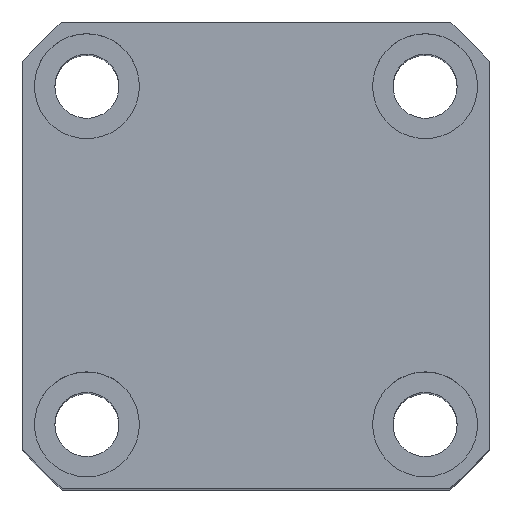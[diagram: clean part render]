
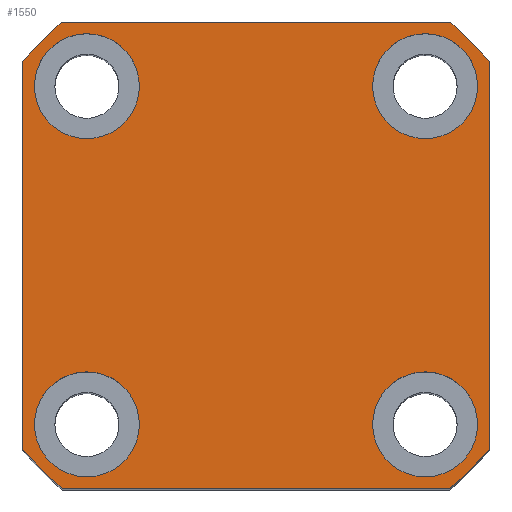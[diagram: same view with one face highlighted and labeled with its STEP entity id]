
A CAD part, top view. The second image highlights one B-rep face of the part: STEP entity #1550.
In plain terms, the highlighted planar face has unit normal (0, 0, 1).
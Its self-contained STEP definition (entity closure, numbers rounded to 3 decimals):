
#8 = DIRECTION ( 'NONE',  ( 1., 0., 0. ) ) ;
#108 = VECTOR ( 'NONE', #3634, 1000. ) ;
#239 = DIRECTION ( 'NONE',  ( 1., 0., 0. ) ) ;
#420 = CARTESIAN_POINT ( 'NONE',  ( 38., -29., 72.5 ) ) ;
#431 = CARTESIAN_POINT ( 'NONE',  ( 38., 29., 72.5 ) ) ;
#545 = AXIS2_PLACEMENT_3D ( 'NONE', #9528, #1205, #9612 ) ;
#702 = ORIENTED_EDGE ( 'NONE', *, *, #2086, .T. ) ;
#760 = CARTESIAN_POINT ( 'NONE',  ( 20., 29., 72.5 ) ) ;
#761 = DIRECTION ( 'NONE',  ( 1., 0., 0. ) ) ;
#773 = CIRCLE ( 'NONE', #3889, 52. ) ;
#853 = VERTEX_POINT ( 'NONE', #10088 ) ;
#1081 = VERTEX_POINT ( 'NONE', #8326 ) ;
#1093 = DIRECTION ( 'NONE',  ( 0., 0., 1. ) ) ;
#1186 = CARTESIAN_POINT ( 'NONE',  ( -33.226, 40., 72.5 ) ) ;
#1205 = DIRECTION ( 'NONE',  ( 0., 0., 1. ) ) ;
#1518 = AXIS2_PLACEMENT_3D ( 'NONE', #5052, #1093, #6952 ) ;
#1550 = ADVANCED_FACE ( 'NONE', ( #6408, #7987, #1799, #10460, #1922 ), #8772, .T. ) ;
#1568 = VERTEX_POINT ( 'NONE', #5389 ) ;
#1589 = CARTESIAN_POINT ( 'NONE',  ( 40., 33.226, 72.5 ) ) ;
#1608 = VERTEX_POINT ( 'NONE', #7776 ) ;
#1684 = DIRECTION ( 'NONE',  ( 0., 0., 1. ) ) ;
#1775 = DIRECTION ( 'NONE',  ( 1., 0., 0. ) ) ;
#1799 = FACE_BOUND ( 'NONE', #10679, .T. ) ;
#1816 = DIRECTION ( 'NONE',  ( 1., 0., 0. ) ) ;
#1855 = AXIS2_PLACEMENT_3D ( 'NONE', #10121, #8449, #7544 ) ;
#1866 = DIRECTION ( 'NONE',  ( 0., 0., 1. ) ) ;
#1886 = CARTESIAN_POINT ( 'NONE',  ( -29., -29., 72.5 ) ) ;
#1922 = FACE_OUTER_BOUND ( 'NONE', #3090, .T. ) ;
#1955 = DIRECTION ( 'NONE',  ( 0., 0., 1. ) ) ;
#1956 = CARTESIAN_POINT ( 'NONE',  ( -40., 33.226, 72.5 ) ) ;
#2086 = EDGE_CURVE ( 'NONE', #1081, #2526, #773, .T. ) ;
#2304 = AXIS2_PLACEMENT_3D ( 'NONE', #10078, #2600, #1816 ) ;
#2326 = EDGE_CURVE ( 'NONE', #9507, #2534, #9039, .T. ) ;
#2383 = AXIS2_PLACEMENT_3D ( 'NONE', #3373, #4277, #8 ) ;
#2436 = DIRECTION ( 'NONE',  ( 0., 0., 1. ) ) ;
#2454 = VERTEX_POINT ( 'NONE', #8530 ) ;
#2511 = EDGE_LOOP ( 'NONE', ( #6665, #6082 ) ) ;
#2526 = VERTEX_POINT ( 'NONE', #2843 ) ;
#2534 = VERTEX_POINT ( 'NONE', #9562 ) ;
#2600 = DIRECTION ( 'NONE',  ( 0., 0., 1. ) ) ;
#2726 = CIRCLE ( 'NONE', #1518, 9. ) ;
#2768 = AXIS2_PLACEMENT_3D ( 'NONE', #5972, #6798, #1775 ) ;
#2843 = CARTESIAN_POINT ( 'NONE',  ( 40., -33.226, 72.5 ) ) ;
#2905 = VERTEX_POINT ( 'NONE', #8022 ) ;
#3090 = EDGE_LOOP ( 'NONE', ( #8005, #4132, #5023, #10431, #702, #9405, #5781, #10272 ) ) ;
#3258 = CIRCLE ( 'NONE', #2768, 52. ) ;
#3344 = EDGE_CURVE ( 'NONE', #5587, #1608, #5650, .T. ) ;
#3373 = CARTESIAN_POINT ( 'NONE',  ( -29., 29., 72.5 ) ) ;
#3377 = EDGE_CURVE ( 'NONE', #5957, #8421, #5358, .T. ) ;
#3467 = VERTEX_POINT ( 'NONE', #420 ) ;
#3634 = DIRECTION ( 'NONE',  ( 0., 1., 0. ) ) ;
#3639 = VECTOR ( 'NONE', #5589, 1000. ) ;
#3760 = CARTESIAN_POINT ( 'NONE',  ( -33.226, -40., 72.5 ) ) ;
#3769 = LINE ( 'NONE', #1186, #9956 ) ;
#3889 = AXIS2_PLACEMENT_3D ( 'NONE', #10244, #1866, #4393 ) ;
#3907 = CIRCLE ( 'NONE', #8833, 9. ) ;
#4055 = AXIS2_PLACEMENT_3D ( 'NONE', #7357, #2436, #761 ) ;
#4126 = EDGE_CURVE ( 'NONE', #10402, #1568, #9179, .T. ) ;
#4132 = ORIENTED_EDGE ( 'NONE', *, *, #2326, .T. ) ;
#4244 = CARTESIAN_POINT ( 'NONE',  ( -40., 33.226, 72.5 ) ) ;
#4277 = DIRECTION ( 'NONE',  ( 0., 0., 1. ) ) ;
#4393 = DIRECTION ( 'NONE',  ( 1., 0., 0. ) ) ;
#4514 = EDGE_CURVE ( 'NONE', #1568, #10402, #6575, .T. ) ;
#4572 = CIRCLE ( 'NONE', #7358, 52. ) ;
#4915 = AXIS2_PLACEMENT_3D ( 'NONE', #7033, #5429, #8729 ) ;
#4933 = VERTEX_POINT ( 'NONE', #1589 ) ;
#4947 = ORIENTED_EDGE ( 'NONE', *, *, #7677, .F. ) ;
#5023 = ORIENTED_EDGE ( 'NONE', *, *, #6704, .T. ) ;
#5052 = CARTESIAN_POINT ( 'NONE',  ( 29., 29., 72.5 ) ) ;
#5116 = DIRECTION ( 'NONE',  ( 0., -1., 0. ) ) ;
#5157 = DIRECTION ( 'NONE',  ( 0., 0., 1. ) ) ;
#5198 = VERTEX_POINT ( 'NONE', #8923 ) ;
#5334 = VECTOR ( 'NONE', #5116, 1000. ) ;
#5358 = CIRCLE ( 'NONE', #5616, 9. ) ;
#5389 = CARTESIAN_POINT ( 'NONE',  ( -38., -29., 72.5 ) ) ;
#5410 = DIRECTION ( 'NONE',  ( -1., 0., 0. ) ) ;
#5429 = DIRECTION ( 'NONE',  ( 0., 0., 1. ) ) ;
#5587 = VERTEX_POINT ( 'NONE', #7801 ) ;
#5589 = DIRECTION ( 'NONE',  ( 1., 0., 0. ) ) ;
#5616 = AXIS2_PLACEMENT_3D ( 'NONE', #6161, #5157, #7814 ) ;
#5650 = CIRCLE ( 'NONE', #2383, 9. ) ;
#5695 = AXIS2_PLACEMENT_3D ( 'NONE', #1886, #8567, #239 ) ;
#5781 = ORIENTED_EDGE ( 'NONE', *, *, #7476, .T. ) ;
#5848 = DIRECTION ( 'NONE',  ( 1., 0., 0. ) ) ;
#5957 = VERTEX_POINT ( 'NONE', #760 ) ;
#5972 = CARTESIAN_POINT ( 'NONE',  ( 0., 0., 72.5 ) ) ;
#6031 = CIRCLE ( 'NONE', #1855, 52. ) ;
#6082 = ORIENTED_EDGE ( 'NONE', *, *, #4514, .F. ) ;
#6089 = EDGE_CURVE ( 'NONE', #3467, #2905, #7224, .T. ) ;
#6161 = CARTESIAN_POINT ( 'NONE',  ( 29., 29., 72.5 ) ) ;
#6216 = CARTESIAN_POINT ( 'NONE',  ( 0., 0., 72.5 ) ) ;
#6408 = FACE_BOUND ( 'NONE', #10545, .T. ) ;
#6415 = LINE ( 'NONE', #7833, #108 ) ;
#6494 = ORIENTED_EDGE ( 'NONE', *, *, #8670, .F. ) ;
#6575 = CIRCLE ( 'NONE', #5695, 9. ) ;
#6665 = ORIENTED_EDGE ( 'NONE', *, *, #4126, .F. ) ;
#6704 = EDGE_CURVE ( 'NONE', #2534, #853, #6031, .T. ) ;
#6706 = CARTESIAN_POINT ( 'NONE',  ( 29., -29., 72.5 ) ) ;
#6798 = DIRECTION ( 'NONE',  ( 0., 0., 1. ) ) ;
#6952 = DIRECTION ( 'NONE',  ( 1., 0., 0. ) ) ;
#7033 = CARTESIAN_POINT ( 'NONE',  ( -29., -29., 72.5 ) ) ;
#7112 = ORIENTED_EDGE ( 'NONE', *, *, #3377, .F. ) ;
#7200 = EDGE_CURVE ( 'NONE', #853, #1081, #8645, .T. ) ;
#7224 = CIRCLE ( 'NONE', #2304, 9. ) ;
#7357 = CARTESIAN_POINT ( 'NONE',  ( -29., 29., 72.5 ) ) ;
#7358 = AXIS2_PLACEMENT_3D ( 'NONE', #6216, #1955, #9511 ) ;
#7476 = EDGE_CURVE ( 'NONE', #4933, #2454, #3258, .T. ) ;
#7544 = DIRECTION ( 'NONE',  ( 1., 0., 0. ) ) ;
#7658 = ORIENTED_EDGE ( 'NONE', *, *, #7699, .F. ) ;
#7677 = EDGE_CURVE ( 'NONE', #2905, #3467, #3907, .T. ) ;
#7699 = EDGE_CURVE ( 'NONE', #8421, #5957, #2726, .T. ) ;
#7776 = CARTESIAN_POINT ( 'NONE',  ( -20., 29., 72.5 ) ) ;
#7801 = CARTESIAN_POINT ( 'NONE',  ( -38., 29., 72.5 ) ) ;
#7814 = DIRECTION ( 'NONE',  ( 1., 0., 0. ) ) ;
#7833 = CARTESIAN_POINT ( 'NONE',  ( 40., 33.226, 72.5 ) ) ;
#7910 = ORIENTED_EDGE ( 'NONE', *, *, #6089, .F. ) ;
#7967 = EDGE_CURVE ( 'NONE', #2526, #4933, #6415, .T. ) ;
#7972 = EDGE_CURVE ( 'NONE', #5198, #9507, #4572, .T. ) ;
#7987 = FACE_BOUND ( 'NONE', #2511, .T. ) ;
#8005 = ORIENTED_EDGE ( 'NONE', *, *, #7972, .T. ) ;
#8022 = CARTESIAN_POINT ( 'NONE',  ( 20., -29., 72.5 ) ) ;
#8043 = EDGE_CURVE ( 'NONE', #2454, #5198, #3769, .T. ) ;
#8326 = CARTESIAN_POINT ( 'NONE',  ( 33.226, -40., 72.5 ) ) ;
#8421 = VERTEX_POINT ( 'NONE', #431 ) ;
#8449 = DIRECTION ( 'NONE',  ( 0., 0., 1. ) ) ;
#8530 = CARTESIAN_POINT ( 'NONE',  ( 33.226, 40., 72.5 ) ) ;
#8567 = DIRECTION ( 'NONE',  ( 0., 0., 1. ) ) ;
#8645 = LINE ( 'NONE', #3760, #3639 ) ;
#8670 = EDGE_CURVE ( 'NONE', #1608, #5587, #10310, .T. ) ;
#8729 = DIRECTION ( 'NONE',  ( 1., 0., 0. ) ) ;
#8772 = PLANE ( 'NONE',  #545 ) ;
#8833 = AXIS2_PLACEMENT_3D ( 'NONE', #6706, #1684, #5848 ) ;
#8871 = CARTESIAN_POINT ( 'NONE',  ( -20., -29., 72.5 ) ) ;
#8923 = CARTESIAN_POINT ( 'NONE',  ( -33.226, 40., 72.5 ) ) ;
#9039 = LINE ( 'NONE', #4244, #5334 ) ;
#9179 = CIRCLE ( 'NONE', #4915, 9. ) ;
#9349 = EDGE_LOOP ( 'NONE', ( #7658, #7112 ) ) ;
#9405 = ORIENTED_EDGE ( 'NONE', *, *, #7967, .T. ) ;
#9507 = VERTEX_POINT ( 'NONE', #1956 ) ;
#9511 = DIRECTION ( 'NONE',  ( 1., 0., 0. ) ) ;
#9528 = CARTESIAN_POINT ( 'NONE',  ( 0., 0., 72.5 ) ) ;
#9562 = CARTESIAN_POINT ( 'NONE',  ( -40., -33.226, 72.5 ) ) ;
#9612 = DIRECTION ( 'NONE',  ( 1., 0., 0. ) ) ;
#9956 = VECTOR ( 'NONE', #5410, 1000. ) ;
#10078 = CARTESIAN_POINT ( 'NONE',  ( 29., -29., 72.5 ) ) ;
#10088 = CARTESIAN_POINT ( 'NONE',  ( -33.226, -40., 72.5 ) ) ;
#10121 = CARTESIAN_POINT ( 'NONE',  ( 0., 0., 72.5 ) ) ;
#10244 = CARTESIAN_POINT ( 'NONE',  ( 0., 0., 72.5 ) ) ;
#10272 = ORIENTED_EDGE ( 'NONE', *, *, #8043, .T. ) ;
#10310 = CIRCLE ( 'NONE', #4055, 9. ) ;
#10402 = VERTEX_POINT ( 'NONE', #8871 ) ;
#10431 = ORIENTED_EDGE ( 'NONE', *, *, #7200, .T. ) ;
#10460 = FACE_BOUND ( 'NONE', #9349, .T. ) ;
#10545 = EDGE_LOOP ( 'NONE', ( #7910, #4947 ) ) ;
#10563 = ORIENTED_EDGE ( 'NONE', *, *, #3344, .F. ) ;
#10679 = EDGE_LOOP ( 'NONE', ( #6494, #10563 ) ) ;
